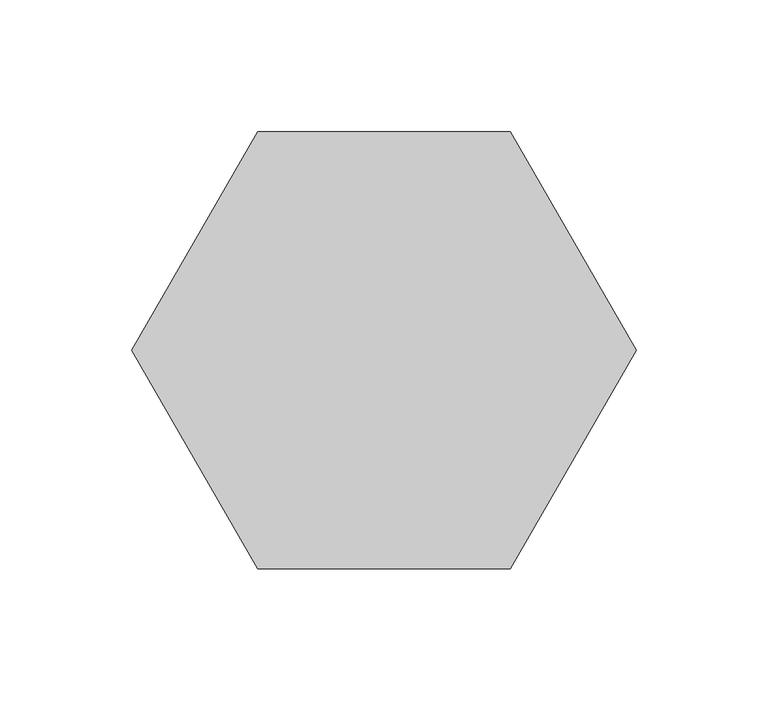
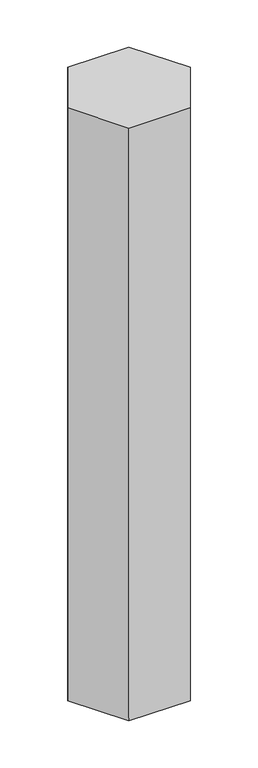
"""IFC4 building model written with IfcOpenShell, lengths in millimetres: geographic element geometry, Enscape AssetDefinition - Pathway Lamp 002 : Enscape AssetDefinition - Pathway Lamp 002."""

from ifc_helpers import new_model, si_unit, origin, place, context, project, spatial, triangles, source, transform, mapped, element, save


def geographic_element_cc1a56ab(model_context):
    return source(origin(), model_context, "Body", "Tessellation", [
        triangles([(-47.7953203, 82.7836189, 0.0), (95.5896595, 0.0, 0.0), (47.7953203, -82.7836189, 977.7092171), (95.5896595, 0.0, 977.7092171), (-47.7953203, -82.7836189, 977.7092171), (47.7953203, 82.7836189, 977.7092171), (47.7953203, -82.7836189, 0.0), (-47.7953203, -82.7836189, 0.0), (-95.5896595, 0.0, 0.0), (-95.5896595, 0.0, 977.7092171), (-47.7953203, 82.7836189, 977.7092171), (47.7953203, 82.7836189, 0.0)], [[5, 4, 11], [10, 5, 11], [3, 4, 5], [2, 12, 4], [12, 1, 6], [1, 9, 11], [9, 8, 10], [8, 7, 5], [7, 2, 3], [8, 1, 2], [7, 8, 2], [9, 1, 8], [4, 6, 11], [4, 12, 6], [6, 1, 11], [11, 9, 10], [10, 8, 5], [5, 7, 3], [3, 2, 4], [1, 12, 2]]),
    ])


if __name__ == "__main__":
    model = new_model("IFC4")
    model_context = context("Model", 3, world=origin())
    ifc_project = project(units=[si_unit("LENGTHUNIT", "METRE", prefix="MILLI")], contexts=[model_context])
    site = spatial("IfcSite", under=ifc_project)
    building = spatial("IfcBuilding", under=site)
    placement = place(None, origin())
    geographic_element_shape = geographic_element_cc1a56ab(model_context)
    element("IfcGeographicElement", 1, ObjectType="Enscape AssetDefinition - Pathway Lamp 002 : Enscape AssetDefinition - Pathway Lamp 002", at=placement, inside=building, context=model_context, shape_type="MappedRepresentation", body=[
        mapped(geographic_element_shape, transform((0.0, 0.0, 0.0), x_axis=(1.0, 0.0, 0.0), y_axis=(0.0, 1.0, 0.0), z_axis=(0.0, 0.0, 1.0))),
    ])
    save(model, "model.ifc")
